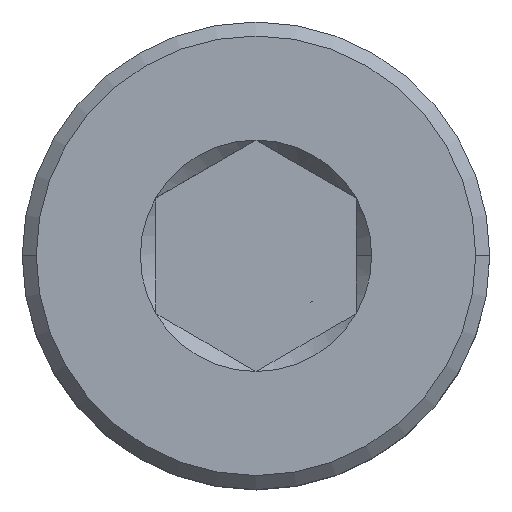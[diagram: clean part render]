
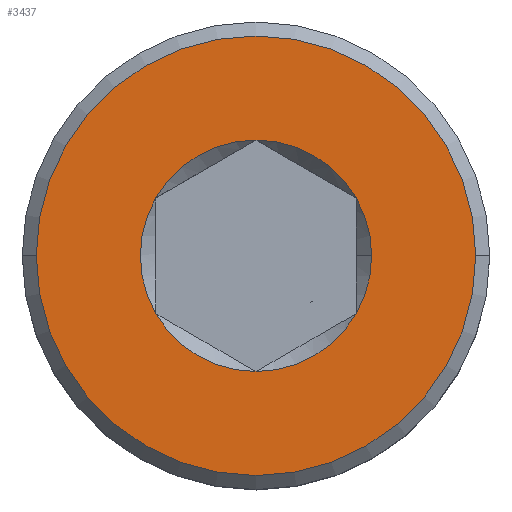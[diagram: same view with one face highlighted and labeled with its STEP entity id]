
A CAD part, top view. The second image highlights one B-rep face of the part: STEP entity #3437.
In plain terms, the highlighted planar face has unit normal (0, 0, 1).
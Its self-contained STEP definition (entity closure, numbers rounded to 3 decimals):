
#234 = DIRECTION ( 'NONE',  ( 0., 0., -1. ) ) ;
#243 = DIRECTION ( 'NONE',  ( 0., 0., -1. ) ) ;
#446 = CIRCLE ( 'NONE', #2452, 1.732 ) ;
#448 = EDGE_CURVE ( 'NONE', #2704, #5605, #6186, .T. ) ;
#497 = EDGE_CURVE ( 'NONE', #3129, #2704, #1982, .T. ) ;
#585 = AXIS2_PLACEMENT_3D ( 'NONE', #1554, #4921, #2026 ) ;
#618 = CARTESIAN_POINT ( 'NONE',  ( 0., 0., 14.594 ) ) ;
#737 = DIRECTION ( 'NONE',  ( 1., 0., 0. ) ) ;
#826 = EDGE_CURVE ( 'NONE', #5842, #870, #3572, .T. ) ;
#870 = VERTEX_POINT ( 'NONE', #5904 ) ;
#882 = EDGE_CURVE ( 'NONE', #870, #4808, #3882, .T. ) ;
#883 = CARTESIAN_POINT ( 'NONE',  ( 3.29, 0., 14.594 ) ) ;
#1062 = CIRCLE ( 'NONE', #5433, 3.29 ) ;
#1091 = CARTESIAN_POINT ( 'NONE',  ( 0., 0., 14.594 ) ) ;
#1095 = ORIENTED_EDGE ( 'NONE', *, *, #826, .T. ) ;
#1166 = DIRECTION ( 'NONE',  ( 1., 0., 0. ) ) ;
#1196 = AXIS2_PLACEMENT_3D ( 'NONE', #1091, #2016, #4470 ) ;
#1197 = ORIENTED_EDGE ( 'NONE', *, *, #882, .T. ) ;
#1324 = VERTEX_POINT ( 'NONE', #2245 ) ;
#1375 = CARTESIAN_POINT ( 'NONE',  ( 0., 0., 14.594 ) ) ;
#1407 = AXIS2_PLACEMENT_3D ( 'NONE', #5808, #2938, #2006 ) ;
#1554 = CARTESIAN_POINT ( 'NONE',  ( 0., 0., 14.594 ) ) ;
#1610 = CARTESIAN_POINT ( 'NONE',  ( 0., 0., 14.594 ) ) ;
#1654 = VERTEX_POINT ( 'NONE', #883 ) ;
#1674 = EDGE_CURVE ( 'NONE', #1324, #1654, #3274, .T. ) ;
#1982 = CIRCLE ( 'NONE', #5823, 1.732 ) ;
#2006 = DIRECTION ( 'NONE',  ( 1., 0., 0. ) ) ;
#2016 = DIRECTION ( 'NONE',  ( 0., 0., -1. ) ) ;
#2026 = DIRECTION ( 'NONE',  ( 1., 0., 0. ) ) ;
#2055 = DIRECTION ( 'NONE',  ( 1., 0., 0. ) ) ;
#2066 = DIRECTION ( 'NONE',  ( 0., 0., -1. ) ) ;
#2115 = FACE_BOUND ( 'NONE', #5325, .T. ) ;
#2160 = VERTEX_POINT ( 'NONE', #4597 ) ;
#2233 = CARTESIAN_POINT ( 'NONE',  ( 0., 0., 14.594 ) ) ;
#2245 = CARTESIAN_POINT ( 'NONE',  ( -3.29, 0., 14.594 ) ) ;
#2314 = DIRECTION ( 'NONE',  ( 0., 0., -1. ) ) ;
#2353 = DIRECTION ( 'NONE',  ( 1., 0., 0. ) ) ;
#2452 = AXIS2_PLACEMENT_3D ( 'NONE', #3139, #234, #4117 ) ;
#2466 = DIRECTION ( 'NONE',  ( 0., 0., -1. ) ) ;
#2704 = VERTEX_POINT ( 'NONE', #4696 ) ;
#2711 = DIRECTION ( 'NONE',  ( 0., 0., -1. ) ) ;
#2831 = ORIENTED_EDGE ( 'NONE', *, *, #4825, .T. ) ;
#2899 = CARTESIAN_POINT ( 'NONE',  ( -1.5, -0.866, 14.594 ) ) ;
#2933 = AXIS2_PLACEMENT_3D ( 'NONE', #1610, #2066, #1166 ) ;
#2938 = DIRECTION ( 'NONE',  ( 0., 0., 1. ) ) ;
#3129 = VERTEX_POINT ( 'NONE', #2899 ) ;
#3139 = CARTESIAN_POINT ( 'NONE',  ( 0., 0., 14.594 ) ) ;
#3220 = CARTESIAN_POINT ( 'NONE',  ( 0., 1.732, 14.594 ) ) ;
#3274 = CIRCLE ( 'NONE', #4112, 3.29 ) ;
#3296 = ORIENTED_EDGE ( 'NONE', *, *, #5901, .F. ) ;
#3432 = PLANE ( 'NONE',  #1407 ) ;
#3437 = ADVANCED_FACE ( 'NONE', ( #2115, #3721 ), #3432, .T. ) ;
#3462 = ORIENTED_EDGE ( 'NONE', *, *, #1674, .F. ) ;
#3572 = CIRCLE ( 'NONE', #5511, 1.732 ) ;
#3665 = AXIS2_PLACEMENT_3D ( 'NONE', #1375, #4762, #2353 ) ;
#3710 = CIRCLE ( 'NONE', #585, 1.732 ) ;
#3721 = FACE_OUTER_BOUND ( 'NONE', #5413, .T. ) ;
#3882 = CIRCLE ( 'NONE', #1196, 1.732 ) ;
#4112 = AXIS2_PLACEMENT_3D ( 'NONE', #5197, #2314, #4264 ) ;
#4117 = DIRECTION ( 'NONE',  ( 1., 0., 0. ) ) ;
#4264 = DIRECTION ( 'NONE',  ( -1., 0., 0. ) ) ;
#4470 = DIRECTION ( 'NONE',  ( 1., 0., 0. ) ) ;
#4526 = EDGE_CURVE ( 'NONE', #2160, #3129, #4611, .T. ) ;
#4597 = CARTESIAN_POINT ( 'NONE',  ( 0., -1.732, 14.594 ) ) ;
#4611 = CIRCLE ( 'NONE', #3665, 1.732 ) ;
#4656 = ORIENTED_EDGE ( 'NONE', *, *, #448, .T. ) ;
#4696 = CARTESIAN_POINT ( 'NONE',  ( -1.5, 0.866, 14.594 ) ) ;
#4762 = DIRECTION ( 'NONE',  ( 0., 0., -1. ) ) ;
#4808 = VERTEX_POINT ( 'NONE', #4966 ) ;
#4825 = EDGE_CURVE ( 'NONE', #4808, #2160, #446, .T. ) ;
#4921 = DIRECTION ( 'NONE',  ( 0., 0., -1. ) ) ;
#4966 = CARTESIAN_POINT ( 'NONE',  ( 1.5, -0.866, 14.594 ) ) ;
#5105 = EDGE_CURVE ( 'NONE', #5605, #5842, #3710, .T. ) ;
#5120 = CARTESIAN_POINT ( 'NONE',  ( 1.5, 0.866, 14.594 ) ) ;
#5141 = DIRECTION ( 'NONE',  ( -1., 0., 0. ) ) ;
#5170 = CARTESIAN_POINT ( 'NONE',  ( 0., 0., 14.594 ) ) ;
#5197 = CARTESIAN_POINT ( 'NONE',  ( 0., 0., 14.594 ) ) ;
#5325 = EDGE_LOOP ( 'NONE', ( #6069, #4656, #5483, #1095, #1197, #2831, #6077 ) ) ;
#5413 = EDGE_LOOP ( 'NONE', ( #3462, #3296 ) ) ;
#5433 = AXIS2_PLACEMENT_3D ( 'NONE', #5170, #2711, #5141 ) ;
#5483 = ORIENTED_EDGE ( 'NONE', *, *, #5105, .T. ) ;
#5511 = AXIS2_PLACEMENT_3D ( 'NONE', #618, #2466, #2055 ) ;
#5605 = VERTEX_POINT ( 'NONE', #3220 ) ;
#5808 = CARTESIAN_POINT ( 'NONE',  ( 0., 0., 14.594 ) ) ;
#5823 = AXIS2_PLACEMENT_3D ( 'NONE', #2233, #243, #737 ) ;
#5842 = VERTEX_POINT ( 'NONE', #5120 ) ;
#5901 = EDGE_CURVE ( 'NONE', #1654, #1324, #1062, .T. ) ;
#5904 = CARTESIAN_POINT ( 'NONE',  ( 1.732, 0., 14.594 ) ) ;
#6069 = ORIENTED_EDGE ( 'NONE', *, *, #497, .T. ) ;
#6077 = ORIENTED_EDGE ( 'NONE', *, *, #4526, .T. ) ;
#6186 = CIRCLE ( 'NONE', #2933, 1.732 ) ;
